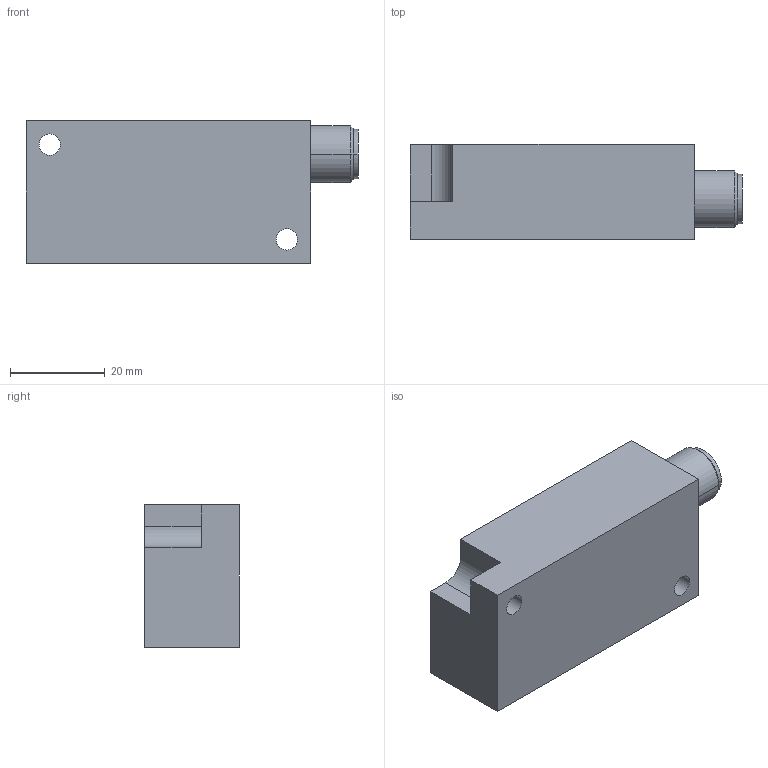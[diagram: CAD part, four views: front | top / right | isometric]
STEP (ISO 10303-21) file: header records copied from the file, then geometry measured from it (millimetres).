
FILE_DESCRIPTION( ( '' ), '1' );
FILE_NAME( '//partserver001.servicenet/client_exchange/iodir/jobs/output/wkb28116182_no0/STEP/1534051_2_03.stp', '2010-09-23T09:34:10', ( '' ), ( '' ), ' ', ' ', ' ' );
FILE_SCHEMA( ( 'CONFIG_CONTROL_DESIGN' ) );
Length unit declared in the file: millimetre
Products named in the file (1): 1
Bounding box: 70 x 20 x 30 mm (x, y, z)
Volume: 34676.6 mm3; surface area: 7840.5 mm2
Topology: 1 solids, 1 shells, 33 faces, 82 edges, 54 vertices
Faces by surface type: plane 18, cylinder 13, cone 2
Entity records: 1042 total; most frequent: DIRECTION 180, CARTESIAN_POINT 170, ORIENTED_EDGE 164, EDGE_CURVE 82, AXIS2_PLACEMENT_3D 64, VERTEX_POINT 54, LINE 52, VECTOR 52
